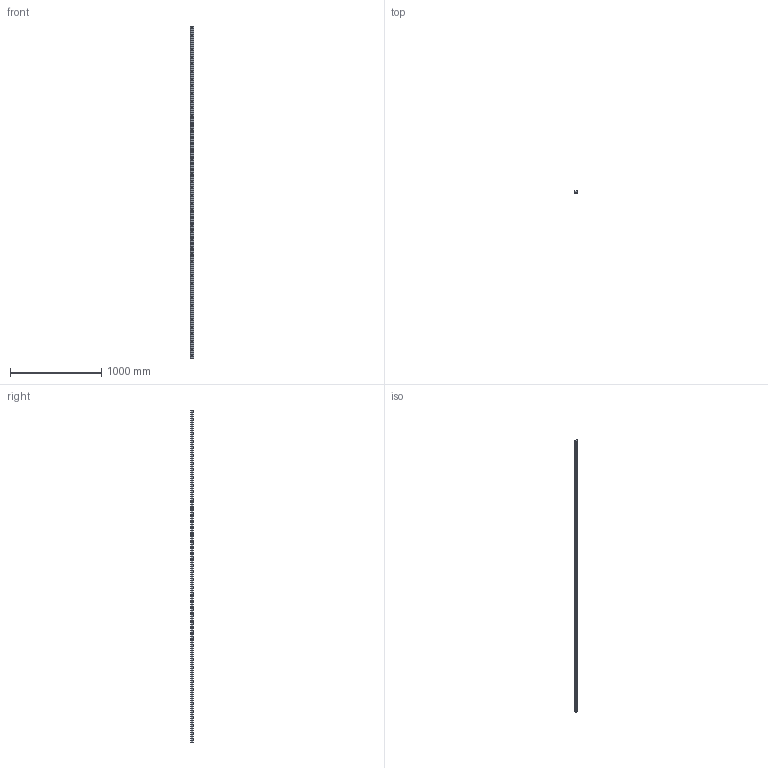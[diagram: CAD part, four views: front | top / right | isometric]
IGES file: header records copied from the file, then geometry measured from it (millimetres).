
Start section: SolidWorks IGES file using analytic representation for surfaces
Global section: file name: C:\Users\IanO\Desktop\Temp File\GENERAL\L1016_v2\L1016.RF35_v2\L1016.RF35_v2_20190612_IGES\L1016.RF35-3640.igs; native system: SolidWorks 2017; preprocessor: SolidWorks 2017; author: IanO; date: 190613.173417; units: millimetre
Bounding box: 34 x 26 x 3640 mm (x, y, z)
Surface area: 473769.3 mm2 (no closed solid volume)
Topology: 0 solids, 0 shells, 348 faces, 5688 edges, 5596 vertices
Faces by surface type: revolution 280, bspline 68
